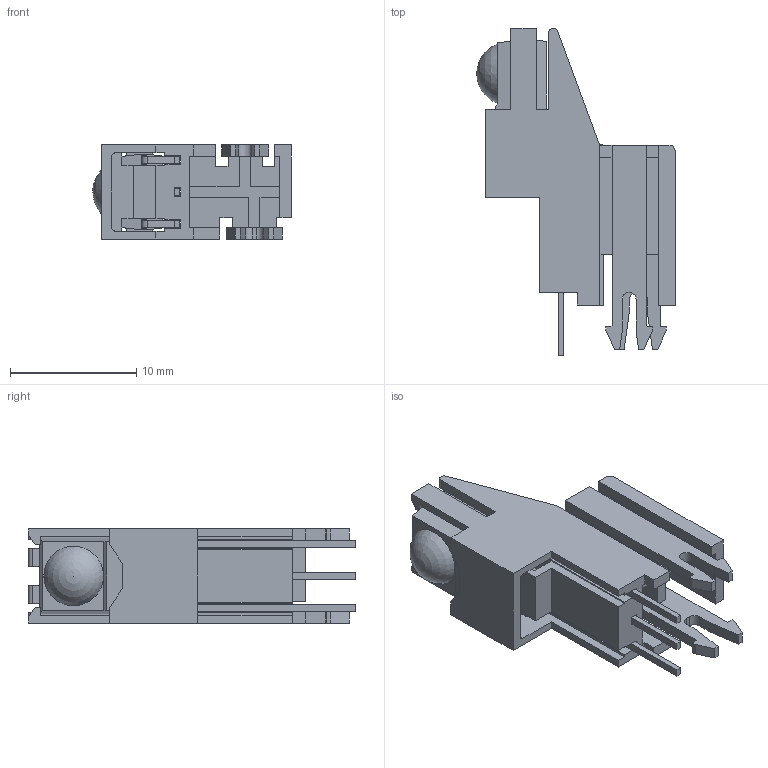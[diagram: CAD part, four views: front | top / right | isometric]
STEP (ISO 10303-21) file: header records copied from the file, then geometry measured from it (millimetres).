
FILE_DESCRIPTION((''),'2;1');
FILE_NAME('C:\temp\Mold_TE.stp','2013-03-08T10:38:05',('gobenland'),(''),'Autodesk Inventor 2013','Autodesk Inventor 2013','');
FILE_SCHEMA(('AUTOMOTIVE_DESIGN { 1 0 10303 214 1 1 1 1 }'));
Length unit declared in the file: millimetre
Products named in the file (5): GO-100185.3; GO-100185.1; GO-100184.1; GO-100184; GO-100184.01
Assembly tree (4 placements, depth 3):
  GO-100185.3
    GO-100185.1
    GO-100184.1
      GO-100184
      GO-100184.01
Bounding box: 15.7 x 25.91 x 7.45 mm (x, y, z)
Volume: 870.5 mm3; surface area: 2087.7 mm2
Topology: 5 solids, 5 shells, 278 faces, 753 edges, 480 vertices
Faces by surface type: plane 231, cylinder 46, sphere 1
Entity records: 8742 total; most frequent: CARTESIAN_POINT 1517, ORIENTED_EDGE 1502, DIRECTION 1419, EDGE_CURVE 751, VECTOR 657, LINE 657, VERTEX_POINT 479, AXIS2_PLACEMENT_3D 381
